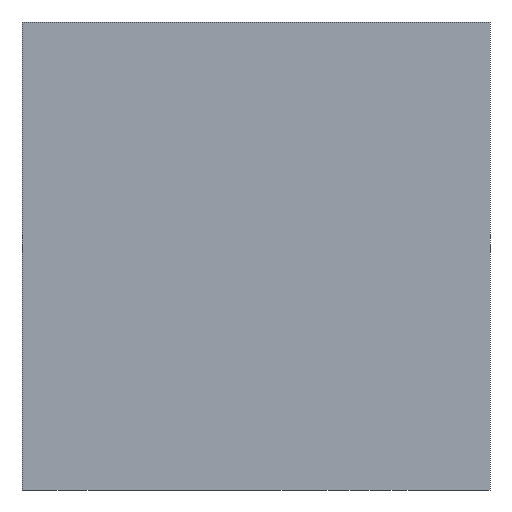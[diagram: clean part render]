
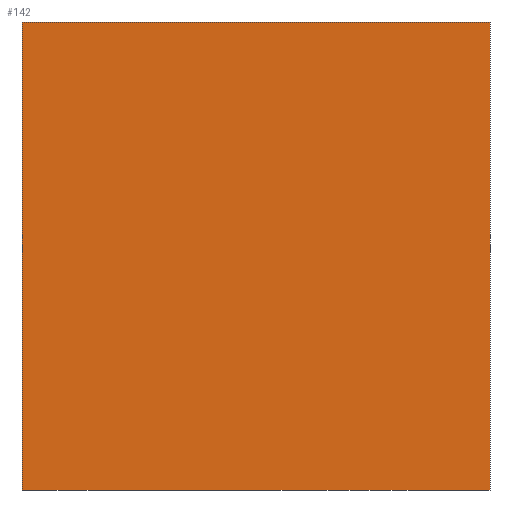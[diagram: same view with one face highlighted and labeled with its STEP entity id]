
A CAD part, left-side view. The second image highlights one B-rep face of the part: STEP entity #142.
In plain terms, the highlighted planar face has unit normal (-1, 0, 0).
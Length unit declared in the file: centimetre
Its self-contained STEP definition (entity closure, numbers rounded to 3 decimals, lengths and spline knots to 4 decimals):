
#10 = DIRECTION ( 'NONE',  ( 0., 0., -1. ) ) ;
#13 = VECTOR ( 'NONE', #160, 100. ) ;
#17 = CARTESIAN_POINT ( 'NONE',  ( 0., 1000., 1000. ) ) ;
#19 = LINE ( 'NONE', #369, #155 ) ;
#23 = VERTEX_POINT ( 'NONE', #78 ) ;
#29 = ORIENTED_EDGE ( 'NONE', *, *, #304, .F. ) ;
#38 = PLANE ( 'NONE',  #43 ) ;
#43 = AXIS2_PLACEMENT_3D ( 'NONE', #209, #143, #10 ) ;
#60 = CARTESIAN_POINT ( 'NONE',  ( 0., 1000., 0. ) ) ;
#77 = EDGE_CURVE ( 'NONE', #81, #23, #286, .T. ) ;
#78 = CARTESIAN_POINT ( 'NONE',  ( 0., 0., 0. ) ) ;
#81 = VERTEX_POINT ( 'NONE', #375 ) ;
#86 = ORIENTED_EDGE ( 'NONE', *, *, #186, .T. ) ;
#95 = LINE ( 'NONE', #240, #224 ) ;
#101 = FACE_OUTER_BOUND ( 'NONE', #219, .T. ) ;
#103 = EDGE_CURVE ( 'NONE', #104, #167, #19, .T. ) ;
#104 = VERTEX_POINT ( 'NONE', #17 ) ;
#127 = LINE ( 'NONE', #275, #13 ) ;
#142 = ADVANCED_FACE ( 'NONE', ( #101 ), #38, .F. ) ;
#143 = DIRECTION ( 'NONE',  ( 1., 0., 0. ) ) ;
#155 = VECTOR ( 'NONE', #281, 100. ) ;
#160 = DIRECTION ( 'NONE',  ( 0., -1., 0. ) ) ;
#167 = VERTEX_POINT ( 'NONE', #60 ) ;
#186 = EDGE_CURVE ( 'NONE', #167, #23, #95, .T. ) ;
#204 = ORIENTED_EDGE ( 'NONE', *, *, #77, .F. ) ;
#209 = CARTESIAN_POINT ( 'NONE',  ( 0., 1000., 1000. ) ) ;
#219 = EDGE_LOOP ( 'NONE', ( #86, #204, #29, #231 ) ) ;
#224 = VECTOR ( 'NONE', #357, 100. ) ;
#231 = ORIENTED_EDGE ( 'NONE', *, *, #103, .T. ) ;
#240 = CARTESIAN_POINT ( 'NONE',  ( 0., 1000., 0. ) ) ;
#264 = CARTESIAN_POINT ( 'NONE',  ( 0., 0., 1000. ) ) ;
#275 = CARTESIAN_POINT ( 'NONE',  ( 0., 1000., 1000. ) ) ;
#281 = DIRECTION ( 'NONE',  ( 0., 0., -1. ) ) ;
#286 = LINE ( 'NONE', #264, #356 ) ;
#304 = EDGE_CURVE ( 'NONE', #104, #81, #127, .T. ) ;
#348 = DIRECTION ( 'NONE',  ( 0., 0., -1. ) ) ;
#356 = VECTOR ( 'NONE', #348, 100. ) ;
#357 = DIRECTION ( 'NONE',  ( 0., -1., 0. ) ) ;
#369 = CARTESIAN_POINT ( 'NONE',  ( 0., 1000., 1000. ) ) ;
#375 = CARTESIAN_POINT ( 'NONE',  ( 0., 0., 1000. ) ) ;
